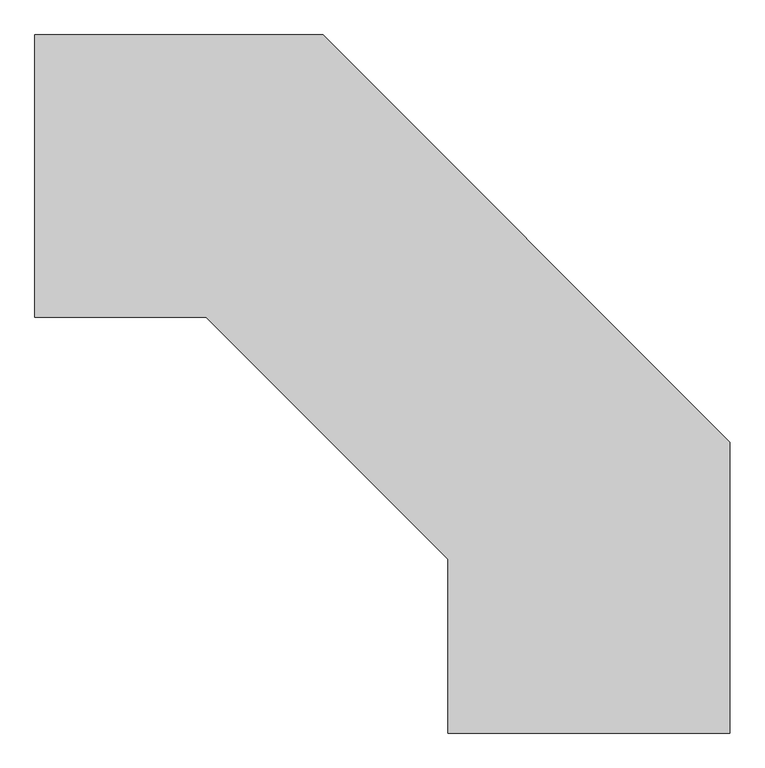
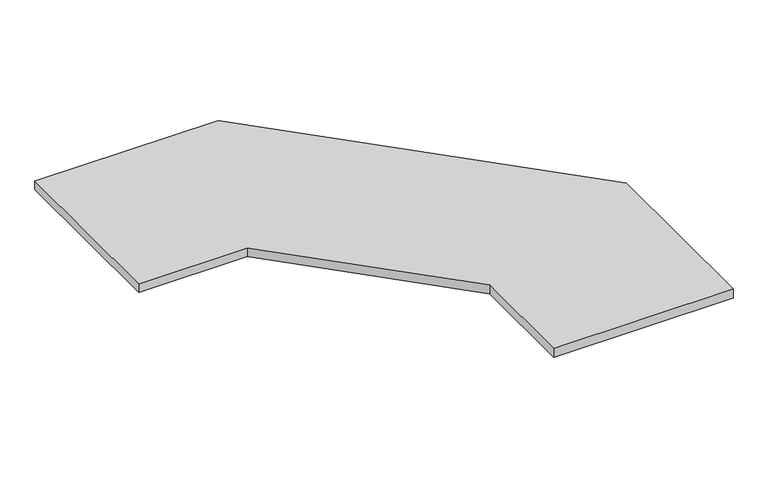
"""IFC4 building model written with IfcOpenShell, lengths in millimetres: furniture geometry, HermanMiller_Ethospace_EWS73_F_Sq-Edge135WorkSurfaceDouble_FrameAttached : Ptd 24D 48W."""

from ifc_helpers import new_model, si_unit, frame, origin, place, context, project, spatial, polyline, outline, extrude, source, transform, mapped, element, save


def furniture_050a35a8(model_context):
    return source(origin(), model_context, "Body", "SweptSolid", [
        extrude(outline(polyline([(390.3078852, -833.4020792), (-193.8921148, -833.4020792), (-193.8921148, -473.2496486), (-694.2916842, 27.1499208), (-1048.7291148, 27.1499208), (-1048.7291148, 611.3499208), (-452.308121, 611.3499208), (390.3078852, -231.2660855), (390.3078852, -833.4020792)])), frame((0.0, 0.0, 706.7296), z_axis=(0.0, 0.0, 1.0), x_axis=(1.0, 0.0, 0.0)), (0.0, 0.0, 1.0), 29.8704),
    ])


if __name__ == "__main__":
    model = new_model("IFC4")
    model_context = context("Model", 3, world=origin())
    ifc_project = project(units=[si_unit("LENGTHUNIT", "METRE", prefix="MILLI")], contexts=[model_context])
    site = spatial("IfcSite", under=ifc_project)
    building = spatial("IfcBuilding", under=site)
    placement = place(None, origin())
    furniture_shape = furniture_050a35a8(model_context)
    element("IfcFurniture", 1, ObjectType="HermanMiller_Ethospace_EWS73_F_Sq-Edge135WorkSurfaceDouble_FrameAttached : Ptd 24D 48W", at=placement, inside=building, context=model_context, shape_type="MappedRepresentation", body=[
        mapped(furniture_shape, transform((0.0, 0.0, 0.0), x_axis=(1.0, 0.0, 0.0), y_axis=(0.0, 1.0, 0.0), z_axis=(0.0, 0.0, 1.0))),
    ])
    save(model, "model.ifc")
